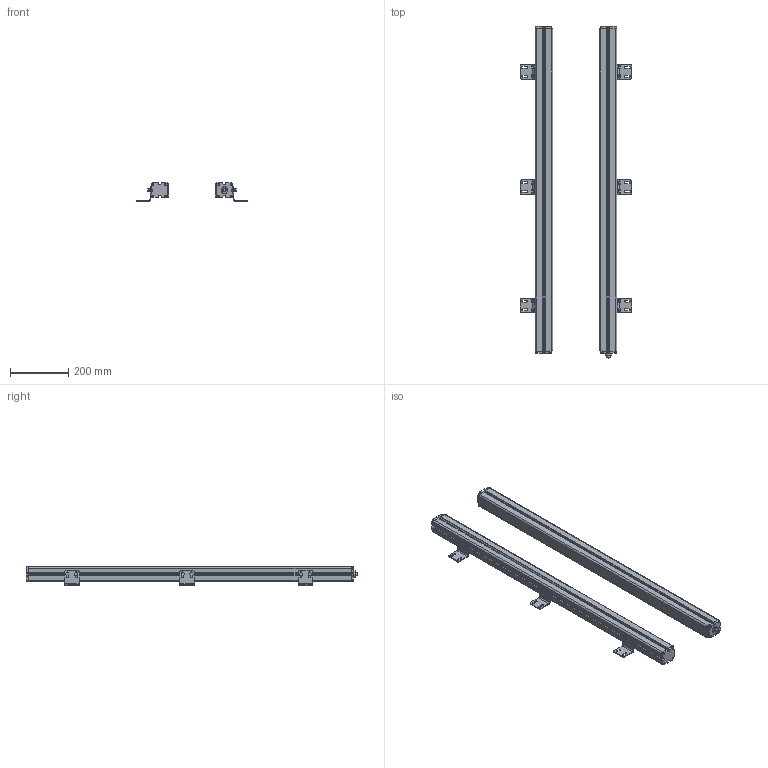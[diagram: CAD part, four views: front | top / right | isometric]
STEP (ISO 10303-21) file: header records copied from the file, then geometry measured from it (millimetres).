
FILE_DESCRIPTION( ( 'STEP AP203' ), '1' );
FILE_NAME( 'p:/temp/worker_29/2856_3348/app_70_02015061610160420464428192d056f_00_00_00_000/STEP/OY903S_2_03.stp', ' ', ( ' ' ), ( ' ' ), 'PSStep 15.0.47', 'PARTsolutions', ' ' );
FILE_SCHEMA( ( 'CONFIG_CONTROL_DESIGN' ) );
Length unit declared in the file: millimetre
Products named in the file (5): OY903S; _OY010S_dummy; _OY903S_part1; _OY901S_part2; _OY903S_part3
Assembly tree (9 placements, depth 2):
  OY903S
    _OY010S_dummy
    _OY903S_part1
    _OY901S_part2  x6
    _OY903S_part3
Bounding box: 382 x 1138.5 x 62.33 mm (x, y, z)
Volume: 6191088 mm3; surface area: 669459.5 mm2
Topology: 8 solids, 8 shells, 1099 faces, 3128 edges, 2078 vertices
Faces by surface type: plane 700, cylinder 398, cone 1
Full cylindrical faces by diameter (mm): 3.242 x16, 6 x24, 7.5 x12, 10.5 x12, 12 x1, 23 x1
Entity records: 22672 total; most frequent: CARTESIAN_POINT 3996, DIRECTION 3890, ORIENTED_EDGE 3886, EDGE_CURVE 1943, LINE 1386, VECTOR 1386, VERTEX_POINT 1309, AXIS2_PLACEMENT_3D 1252
